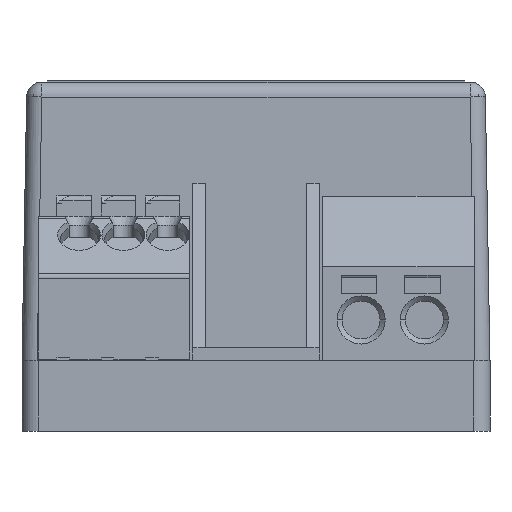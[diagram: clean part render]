
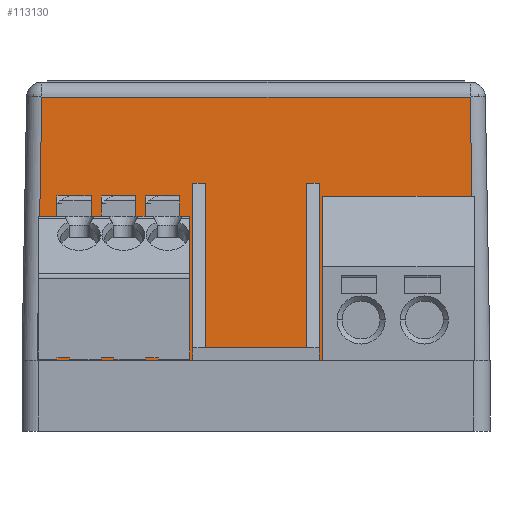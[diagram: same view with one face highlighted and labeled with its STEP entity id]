
A CAD part, front view. The second image highlights one B-rep face of the part: STEP entity #113130.
In plain terms, the highlighted planar face has unit normal (0, -1, 0.018) as drawn and (-1, 0.017, 0) by its records, which use the part's own axes.
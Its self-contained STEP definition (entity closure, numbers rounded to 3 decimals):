
#1382 = DIRECTION ( 'NONE',  ( 0., 0., 1. ) ) ;
#2444 = PLANE ( 'NONE',  #103334 ) ;
#4095 = EDGE_CURVE ( 'NONE', #124825, #119976, #17843, .T. ) ;
#13599 = DIRECTION ( 'NONE',  ( 0., 0., -1. ) ) ;
#17843 = LINE ( 'NONE', #40032, #102858 ) ;
#21989 = DIRECTION ( 'NONE',  ( 0.017, 1., -0.017 ) ) ;
#25772 = EDGE_LOOP ( 'NONE', ( #109476, #98238, #93894, #118700 ) ) ;
#26471 = CARTESIAN_POINT ( 'NONE',  ( 0.363, 20.821, -1.563 ) ) ;
#26956 = DIRECTION ( 'NONE',  ( -1., 0.017, 0. ) ) ;
#30473 = CARTESIAN_POINT ( 'NONE',  ( 0., 0., 0. ) ) ;
#40032 = CARTESIAN_POINT ( 'NONE',  ( 0., -0.021, -1.199 ) ) ;
#40667 = VECTOR ( 'NONE', #67342, 1000. ) ;
#42299 = FACE_OUTER_BOUND ( 'NONE', #25772, .T. ) ;
#45594 = EDGE_CURVE ( 'NONE', #119976, #54467, #60642, .T. ) ;
#46669 = DIRECTION ( 'NONE',  ( -0.017, -1., 0. ) ) ;
#52377 = CARTESIAN_POINT ( 'NONE',  ( 0., 0., -35.8 ) ) ;
#52992 = EDGE_CURVE ( 'NONE', #64682, #124825, #79578, .T. ) ;
#54467 = VERTEX_POINT ( 'NONE', #92172 ) ;
#60642 = LINE ( 'NONE', #73742, #121862 ) ;
#64182 = LINE ( 'NONE', #89308, #40667 ) ;
#64682 = VERTEX_POINT ( 'NONE', #52377 ) ;
#67342 = DIRECTION ( 'NONE',  ( -0.017, -1., -0.017 ) ) ;
#73742 = CARTESIAN_POINT ( 'NONE',  ( 0.363, 20.821, 0. ) ) ;
#76819 = EDGE_CURVE ( 'NONE', #54467, #64682, #64182, .T. ) ;
#79578 = LINE ( 'NONE', #30473, #82755 ) ;
#81615 = CARTESIAN_POINT ( 'NONE',  ( 0., 0., 0. ) ) ;
#82755 = VECTOR ( 'NONE', #1382, 1000. ) ;
#89308 = CARTESIAN_POINT ( 'NONE',  ( 0.011, 0.625, -35.789 ) ) ;
#92172 = CARTESIAN_POINT ( 'NONE',  ( 0.363, 20.821, -35.437 ) ) ;
#93894 = ORIENTED_EDGE ( 'NONE', *, *, #45594, .T. ) ;
#98238 = ORIENTED_EDGE ( 'NONE', *, *, #4095, .T. ) ;
#102858 = VECTOR ( 'NONE', #21989, 1000. ) ;
#103334 = AXIS2_PLACEMENT_3D ( 'NONE', #81615, #26956, #46669 ) ;
#109476 = ORIENTED_EDGE ( 'NONE', *, *, #52992, .T. ) ;
#111411 = CARTESIAN_POINT ( 'NONE',  ( 0., 0., -1.2 ) ) ;
#113130 = ADVANCED_FACE ( 'NONE', ( #42299 ), #2444, .T. ) ;
#118700 = ORIENTED_EDGE ( 'NONE', *, *, #76819, .T. ) ;
#119976 = VERTEX_POINT ( 'NONE', #26471 ) ;
#121862 = VECTOR ( 'NONE', #13599, 1000. ) ;
#124825 = VERTEX_POINT ( 'NONE', #111411 ) ;
